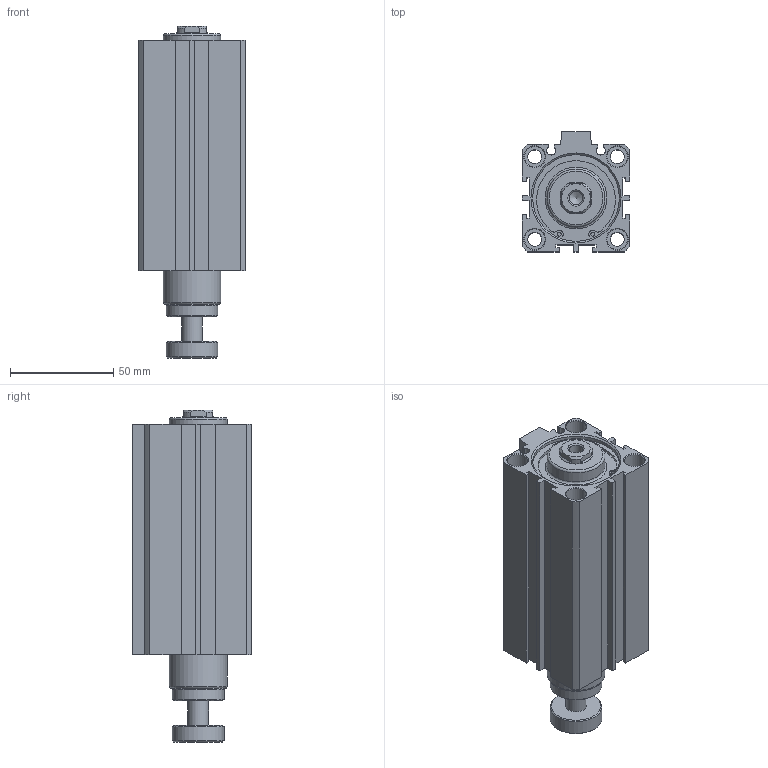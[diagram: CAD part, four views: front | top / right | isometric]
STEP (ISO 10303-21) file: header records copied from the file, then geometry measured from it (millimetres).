
FILE_DESCRIPTION((''),'2;1');
FILE_NAME('I:\3D電子目錄\氣缸\JDAR\JDAR-S\JDAR40-S\JDAR40x75-S.stp','2007-05-05T09:38:35',('662F206'),(''),'Autodesk Inventor 11','Autodesk Inventor 11','');
FILE_SCHEMA(('AUTOMOTIVE_DESIGN { 1 0 10303 214 1 1 1 1 }'));
Length unit declared in the file: millimetre
Products named in the file (3): JDAR40-S; JDAR40; R 形環 42
Assembly tree (3 placements, depth 2):
  JDAR40-S
    JDAR40
    R 形環 42  x2
Bounding box: 52 x 58 x 160.8 mm (x, y, z)
Volume: 282695.8 mm3; surface area: 57111 mm2
Topology: 3 solids, 3 shells, 172 faces, 405 edges, 263 vertices
Faces by surface type: plane 92, cylinder 51, cone 23, bspline 4, torus 2
Full cylindrical faces by diameter (mm): 1.9 x4, 2.2 x2, 6.8 x4, 10 x9, 25 x2, 28 x2, 42 x4, 44.5 x2
Entity records: 4475 total; most frequent: CARTESIAN_POINT 858, DIRECTION 758, ORIENTED_EDGE 634, EDGE_CURVE 317, AXIS2_PLACEMENT_3D 287, EDGE_LOOP 248, VERTEX_POINT 237, VECTOR 184
